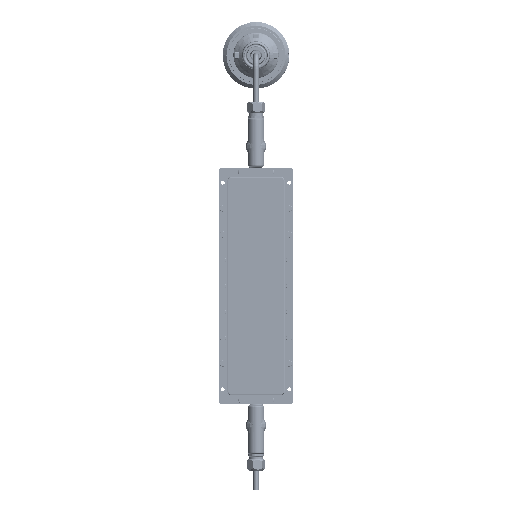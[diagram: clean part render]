
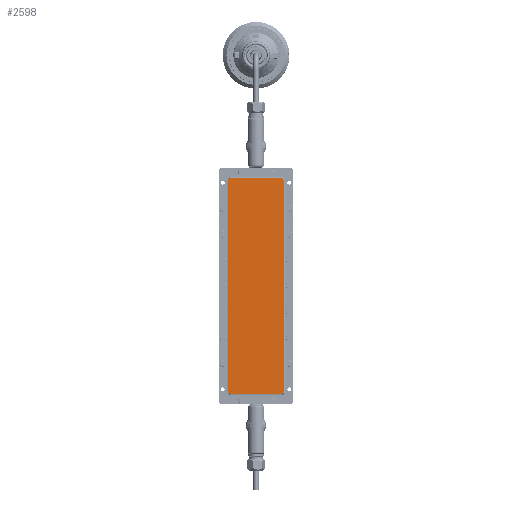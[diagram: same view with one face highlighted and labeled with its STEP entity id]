
A CAD part, front view. The second image highlights one B-rep face of the part: STEP entity #2598.
In plain terms, the highlighted planar face has unit normal (0, -1, 0).
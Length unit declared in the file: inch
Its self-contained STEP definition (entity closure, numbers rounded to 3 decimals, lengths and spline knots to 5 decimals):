
#1163 = DIRECTION ( 'NONE',  ( 0., 0., -1. ) ) ;
#1386 = CARTESIAN_POINT ( 'NONE',  ( 8.1275, -1.5635, 1.845 ) ) ;
#1913 = EDGE_CURVE ( 'NONE', #50994, #27960, #33064, .T. ) ;
#2209 = VERTEX_POINT ( 'NONE', #26919 ) ;
#2598 = ADVANCED_FACE ( 'NONE', ( #34586 ), #64777, .T. ) ;
#2780 = CARTESIAN_POINT ( 'NONE',  ( 0., -1.5635, 0. ) ) ;
#2807 = EDGE_CURVE ( 'NONE', #64615, #2209, #56463, .T. ) ;
#2850 = VECTOR ( 'NONE', #30110, 39.37008 ) ;
#3653 = DIRECTION ( 'NONE',  ( 0., 0., -1. ) ) ;
#4242 = DIRECTION ( 'NONE',  ( 0., 0., -1. ) ) ;
#5292 = CARTESIAN_POINT ( 'NONE',  ( -8.1275, -1.5635, -1.845 ) ) ;
#8013 = DIRECTION ( 'NONE',  ( 0., 0., -1. ) ) ;
#8564 = AXIS2_PLACEMENT_3D ( 'NONE', #66410, #35336, #4242 ) ;
#10011 = LINE ( 'NONE', #17532, #51421 ) ;
#10363 = EDGE_CURVE ( 'NONE', #44565, #31692, #41036, .T. ) ;
#11192 = DIRECTION ( 'NONE',  ( -1., 0., 0. ) ) ;
#11892 = CARTESIAN_POINT ( 'NONE',  ( -7.8975, -1.5635, -2.075 ) ) ;
#12158 = AXIS2_PLACEMENT_3D ( 'NONE', #2780, #39091, #8013 ) ;
#12779 = EDGE_CURVE ( 'NONE', #59005, #58503, #14786, .T. ) ;
#13536 = LINE ( 'NONE', #36844, #67152 ) ;
#14786 = CIRCLE ( 'NONE', #40066, 0.23 ) ;
#16122 = ORIENTED_EDGE ( 'NONE', *, *, #2807, .T. ) ;
#17532 = CARTESIAN_POINT ( 'NONE',  ( 7.8975, -1.5635, -2.075 ) ) ;
#20977 = DIRECTION ( 'NONE',  ( 0., 0., -1. ) ) ;
#22963 = DIRECTION ( 'NONE',  ( 1., 0., 0. ) ) ;
#24911 = CARTESIAN_POINT ( 'NONE',  ( 8.1275, -1.5635, 1.845 ) ) ;
#26210 = EDGE_CURVE ( 'NONE', #2209, #50994, #59826, .T. ) ;
#26892 = DIRECTION ( 'NONE',  ( 0., -1., 0. ) ) ;
#26919 = CARTESIAN_POINT ( 'NONE',  ( -8.1275, -1.5635, 1.845 ) ) ;
#27960 = VERTEX_POINT ( 'NONE', #11892 ) ;
#28944 = EDGE_LOOP ( 'NONE', ( #66150, #29442, #37154, #55078, #60226, #61559, #42532, #16122 ) ) ;
#29442 = ORIENTED_EDGE ( 'NONE', *, *, #1913, .T. ) ;
#30110 = DIRECTION ( 'NONE',  ( 0., 0., 1. ) ) ;
#30562 = EDGE_CURVE ( 'NONE', #58503, #64615, #13536, .T. ) ;
#31692 = VERTEX_POINT ( 'NONE', #66190 ) ;
#32276 = DIRECTION ( 'NONE',  ( 0., -1., 0. ) ) ;
#33064 = CIRCLE ( 'NONE', #8564, 0.23 ) ;
#34586 = FACE_OUTER_BOUND ( 'NONE', #28944, .T. ) ;
#34743 = DIRECTION ( 'NONE',  ( 0., -1., 0. ) ) ;
#35336 = DIRECTION ( 'NONE',  ( 0., -1., 0. ) ) ;
#36844 = CARTESIAN_POINT ( 'NONE',  ( -7.8975, -1.5635, 2.075 ) ) ;
#37154 = ORIENTED_EDGE ( 'NONE', *, *, #41601, .T. ) ;
#39091 = DIRECTION ( 'NONE',  ( 0., -1., 0. ) ) ;
#40066 = AXIS2_PLACEMENT_3D ( 'NONE', #65801, #34743, #3653 ) ;
#41036 = CIRCLE ( 'NONE', #52079, 0.23 ) ;
#41601 = EDGE_CURVE ( 'NONE', #27960, #44565, #10011, .T. ) ;
#42532 = ORIENTED_EDGE ( 'NONE', *, *, #30562, .T. ) ;
#43473 = CARTESIAN_POINT ( 'NONE',  ( 7.8975, -1.5635, 2.075 ) ) ;
#44565 = VERTEX_POINT ( 'NONE', #61254 ) ;
#46533 = EDGE_CURVE ( 'NONE', #31692, #59005, #49920, .T. ) ;
#49920 = LINE ( 'NONE', #24911, #2850 ) ;
#50994 = VERTEX_POINT ( 'NONE', #66112 ) ;
#51421 = VECTOR ( 'NONE', #22963, 39.37008 ) ;
#52079 = AXIS2_PLACEMENT_3D ( 'NONE', #57971, #26892, #63190 ) ;
#55078 = ORIENTED_EDGE ( 'NONE', *, *, #10363, .T. ) ;
#56463 = CIRCLE ( 'NONE', #64339, 0.23 ) ;
#57971 = CARTESIAN_POINT ( 'NONE',  ( 7.8975, -1.5635, -1.845 ) ) ;
#58207 = VECTOR ( 'NONE', #20977, 39.37008 ) ;
#58503 = VERTEX_POINT ( 'NONE', #43473 ) ;
#59005 = VERTEX_POINT ( 'NONE', #1386 ) ;
#59826 = LINE ( 'NONE', #5292, #58207 ) ;
#60226 = ORIENTED_EDGE ( 'NONE', *, *, #46533, .T. ) ;
#61254 = CARTESIAN_POINT ( 'NONE',  ( 7.8975, -1.5635, -2.075 ) ) ;
#61559 = ORIENTED_EDGE ( 'NONE', *, *, #12779, .T. ) ;
#62233 = CARTESIAN_POINT ( 'NONE',  ( -7.8975, -1.5635, 2.075 ) ) ;
#63190 = DIRECTION ( 'NONE',  ( 0., 0., -1. ) ) ;
#63335 = CARTESIAN_POINT ( 'NONE',  ( -7.8975, -1.5635, 1.845 ) ) ;
#64339 = AXIS2_PLACEMENT_3D ( 'NONE', #63335, #32276, #1163 ) ;
#64615 = VERTEX_POINT ( 'NONE', #62233 ) ;
#64777 = PLANE ( 'NONE',  #12158 ) ;
#65801 = CARTESIAN_POINT ( 'NONE',  ( 7.8975, -1.5635, 1.845 ) ) ;
#66112 = CARTESIAN_POINT ( 'NONE',  ( -8.1275, -1.5635, -1.845 ) ) ;
#66150 = ORIENTED_EDGE ( 'NONE', *, *, #26210, .T. ) ;
#66190 = CARTESIAN_POINT ( 'NONE',  ( 8.1275, -1.5635, -1.845 ) ) ;
#66410 = CARTESIAN_POINT ( 'NONE',  ( -7.8975, -1.5635, -1.845 ) ) ;
#67152 = VECTOR ( 'NONE', #11192, 39.37008 ) ;
